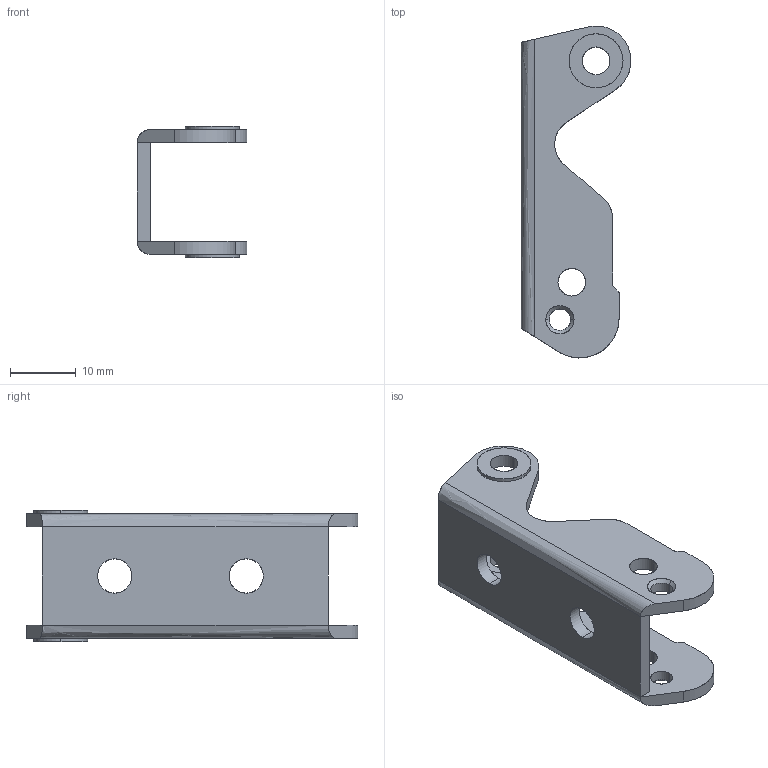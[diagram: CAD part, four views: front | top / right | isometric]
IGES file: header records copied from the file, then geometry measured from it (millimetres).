
Start section: SolidWorks IGES FILE using analytic representation for surfaces
Global section: file name: C:\Documents and Settings\lecoutey\Bureau\GP 75\52.020.10.IGS; native system: SolidWorks 2004 by SolidWorks Corporation; preprocessor: Version 5.3; author: lecoutey; date: 050329.141611; units: millimetre
Bounding box: 16.69 x 50.49 x 20 mm (x, y, z)
Surface area: 4065.6 mm2 (no closed solid volume)
Topology: 0 solids, 0 shells, 70 faces, 1290 edges, 1290 vertices
Faces by surface type: revolution 44, bspline 26
